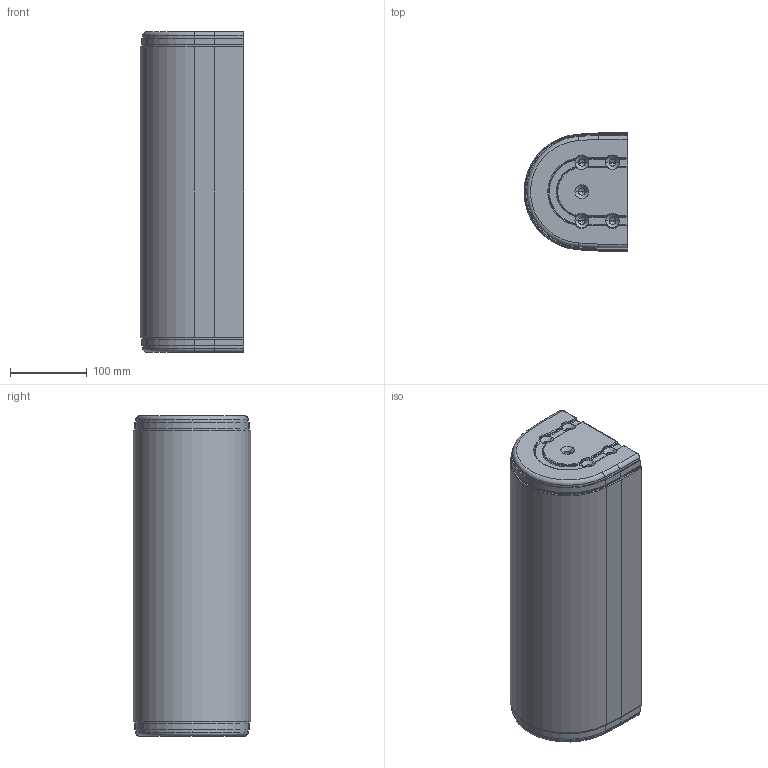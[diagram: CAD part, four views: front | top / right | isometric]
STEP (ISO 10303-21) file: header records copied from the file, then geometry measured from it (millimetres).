
FILE_DESCRIPTION (( 'STEP AP214' ), '1' );
FILE_NAME ('F2 1500 R.step', '2017-04-05T06:48:21', ( '' ), ( '' ), 'SwSTEP 2.0', 'SolidWorks 2015', '' );
FILE_SCHEMA (( 'AUTOMOTIVE_DESIGN' ));
Length unit declared in the file: millimetre
Products named in the file (1): F2 1500 R
Bounding box: 135.3 x 153.4 x 418 mm (x, y, z)
Volume: 7494736.4 mm3; surface area: 252070.7 mm2
Topology: 1 solids, 1 shells, 273 faces, 679 edges, 382 vertices
Faces by surface type: cylinder 120, plane 65, torus 40, cone 40, sphere 8
Entity records: 8646 total; most frequent: CARTESIAN_POINT 1843, DIRECTION 1385, ORIENTED_EDGE 1302, EDGE_CURVE 651, AXIS2_PLACEMENT_3D 530, VERTEX_POINT 382, LINE 325, VECTOR 325
